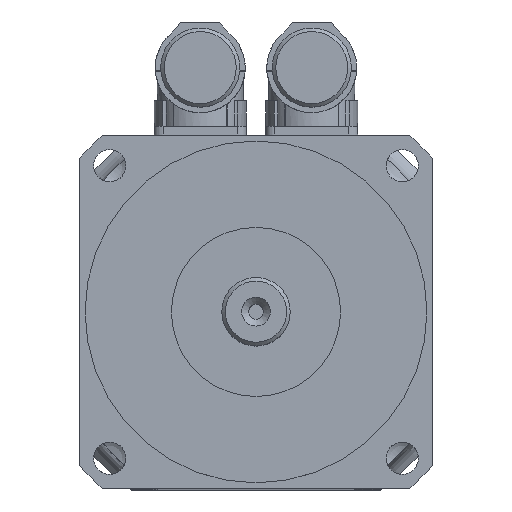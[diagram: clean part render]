
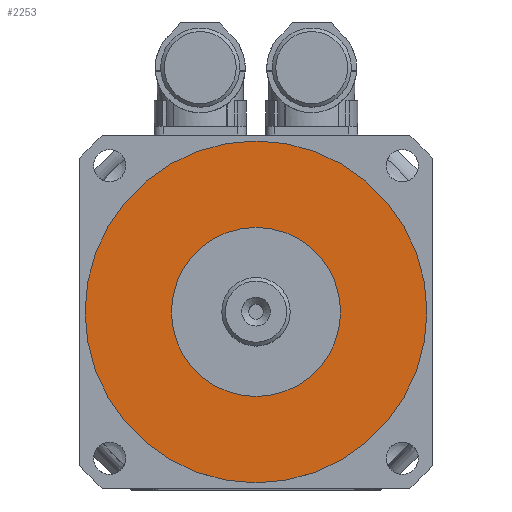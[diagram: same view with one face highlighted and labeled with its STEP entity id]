
A CAD part, top view. The second image highlights one B-rep face of the part: STEP entity #2253.
In plain terms, the highlighted planar face has unit normal (0, 0, 1).
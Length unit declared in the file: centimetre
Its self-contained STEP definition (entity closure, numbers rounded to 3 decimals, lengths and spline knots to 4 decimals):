
#642=PLANE('',#2410);
#741=VERTEX_POINT('',#4021);
#743=VERTEX_POINT('',#4026);
#916=CIRCLE('',#2405,4.75);
#918=CIRCLE('',#2408,2.35);
#1096=EDGE_CURVE('',#741,#741,#916,.T.);
#1098=EDGE_CURVE('',#743,#743,#918,.T.);
#1461=ORIENTED_EDGE('',*,*,#1098,.F.);
#1462=ORIENTED_EDGE('',*,*,#1096,.F.);
#1932=EDGE_LOOP('',(#1461));
#1933=EDGE_LOOP('',(#1462));
#2100=FACE_BOUND('',#1932,.T.);
#2101=FACE_BOUND('',#1933,.T.);
#2253=ADVANCED_FACE('',(#2100,#2101),#642,.T.);
#2405=AXIS2_PLACEMENT_3D('',#4020,#2769,#2770);
#2408=AXIS2_PLACEMENT_3D('',#4025,#2775,#2776);
#2410=AXIS2_PLACEMENT_3D('',#4029,#2779,$);
#2769=DIRECTION('',(0.,0.,-1.));
#2770=DIRECTION('',(4.75,0.,0.));
#2775=DIRECTION('',(0.,0.,1.));
#2776=DIRECTION('',(2.35,0.,0.));
#2779=DIRECTION('',(0.,0.,1.));
#4020=CARTESIAN_POINT('',(0.,0.,1.6));
#4021=CARTESIAN_POINT('',(4.75,0.,1.6));
#4025=CARTESIAN_POINT('',(0.,0.,1.6));
#4026=CARTESIAN_POINT('',(2.35,0.,1.6));
#4029=CARTESIAN_POINT('',(0.,0.,1.6));
